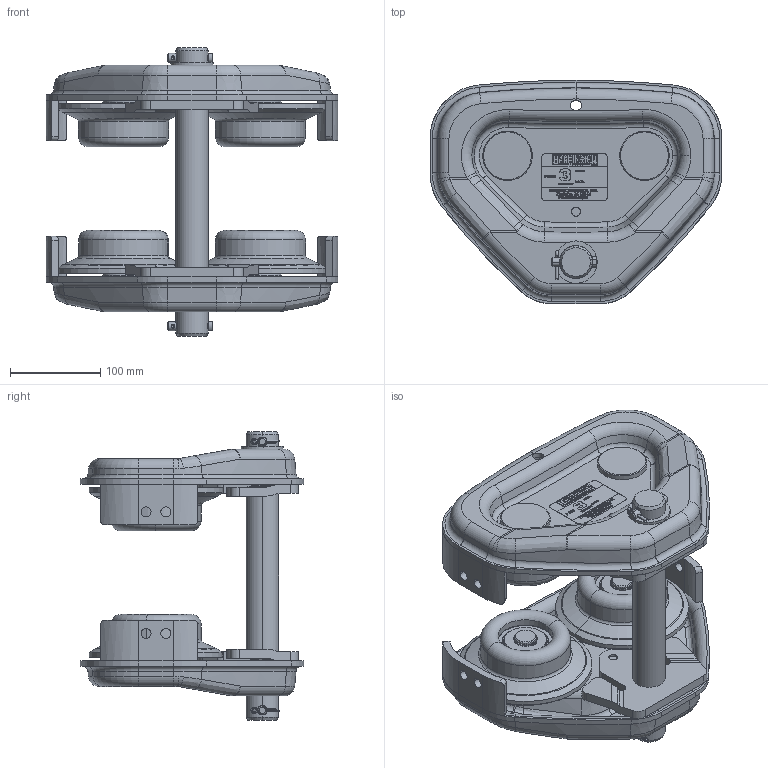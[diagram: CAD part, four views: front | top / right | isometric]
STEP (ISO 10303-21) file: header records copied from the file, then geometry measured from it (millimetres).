
FILE_DESCRIPTION (( 'STEP AP214' ), '1' );
FILE_NAME ('PTS2030.STEP', '2026-08-17T13:19:18', ( '' ), ( '' ), 'SwSTEP 2.0', 'SolidWorks 2026', '' );
FILE_SCHEMA (( 'AUTOMOTIVE_DESIGN' ));
Length unit declared in the file: inch
Products named in the file (17): T6GA0309102; T7GA0309141; MS164020; PTS2030; T6GA0309112; 9047125_B27.7M - 3AM1-23; T6G800030P; 9009432_9009432; T6G5102030; T7GA0305112; T7GA0309142; T6GA0309103; T6GA0309113; MS104030; T7G115030; T7G117030; J1GR020-0630
Assembly tree (29 placements, depth 3):
  PTS2030
    T7GA0305112  x2
      T6GA0309112
      T6GA0309103
      T6GA0309113
      T7GA0309141
      T7GA0309142
    T6G5102030  x4
      T6GA0309102
      J1GR020-0630
    MS104030  x4
    9047125_B27.7M - 3AM1-23  x4
    T7G115030
    T7G117030
    MS164020  x2
    9009432_9009432  x2
    T6G800030P
Bounding box: 324 x 248 x 320 mm (x, y, z)
Volume: 2505000.7 mm3; surface area: 905667.2 mm2
Topology: 31 solids, 47 shells, 4473 faces, 11813 edges, 7728 vertices
Faces by surface type: plane 2826, bspline 641, cylinder 566, torus 256, cone 164, sphere 20
Entity records: 110940 total; most frequent: CARTESIAN_POINT 44128, ORIENTED_EDGE 14858, DIRECTION 11336, EDGE_CURVE 7431, VECTOR 5192, LINE 5192, VERTEX_POINT 4890, AXIS2_PLACEMENT_3D 3072
